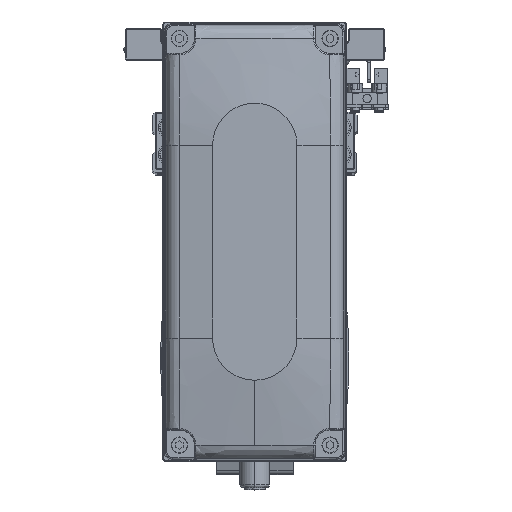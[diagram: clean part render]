
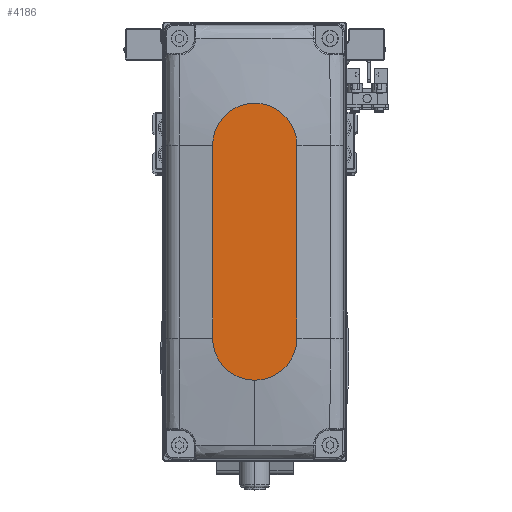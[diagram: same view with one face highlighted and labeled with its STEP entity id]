
A CAD part, top view. The second image highlights one B-rep face of the part: STEP entity #4186.
In plain terms, the highlighted planar face has unit normal (0, 0, 1).
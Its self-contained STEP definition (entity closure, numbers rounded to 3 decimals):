
#423 = FACE_OUTER_BOUND ( 'NONE', #6523, .T. ) ;
#1273 = VERTEX_POINT ( 'NONE', #39186 ) ;
#1649 = ORIENTED_EDGE ( 'NONE', *, *, #20630, .T. ) ;
#3015 = VERTEX_POINT ( 'NONE', #13288 ) ;
#3447 = VERTEX_POINT ( 'NONE', #15024 ) ;
#4186 = ADVANCED_FACE ( 'NONE', ( #423 ), #14258, .T. ) ;
#4999 = EDGE_CURVE ( 'NONE', #3447, #25923, #7928, .T. ) ;
#5270 = ORIENTED_EDGE ( 'NONE', *, *, #4999, .T. ) ;
#5757 = EDGE_CURVE ( 'NONE', #1273, #26841, #26725, .T. ) ;
#6523 = EDGE_LOOP ( 'NONE', ( #5270, #42004, #1649, #21681, #31702 ) ) ;
#7174 = AXIS2_PLACEMENT_3D ( 'NONE', #24872, #38697, #7606 ) ;
#7606 = DIRECTION ( 'NONE',  ( 1., 0., 0. ) ) ;
#7928 = LINE ( 'NONE', #21792, #27905 ) ;
#9667 = DIRECTION ( 'NONE',  ( 0., 0., 1. ) ) ;
#10834 = DIRECTION ( 'NONE',  ( 1., 0., 0. ) ) ;
#13288 = CARTESIAN_POINT ( 'NONE',  ( -32., -14., 35. ) ) ;
#13415 = DIRECTION ( 'NONE',  ( 1., 0., 0. ) ) ;
#14069 = LINE ( 'NONE', #27910, #22207 ) ;
#14226 = CARTESIAN_POINT ( 'NONE',  ( 46., 0., 35. ) ) ;
#14258 = PLANE ( 'NONE',  #28889 ) ;
#15024 = CARTESIAN_POINT ( 'NONE',  ( 32., 14., 35. ) ) ;
#19318 = CIRCLE ( 'NONE', #44691, 14. ) ;
#20423 = CIRCLE ( 'NONE', #26203, 14. ) ;
#20630 = EDGE_CURVE ( 'NONE', #3015, #1273, #14069, .T. ) ;
#21681 = ORIENTED_EDGE ( 'NONE', *, *, #5757, .T. ) ;
#21792 = CARTESIAN_POINT ( 'NONE',  ( -32., 14., 35. ) ) ;
#22207 = VECTOR ( 'NONE', #41739, 1000. ) ;
#22402 = EDGE_CURVE ( 'NONE', #25923, #3015, #19318, .T. ) ;
#23531 = DIRECTION ( 'NONE',  ( 1., 0., 0. ) ) ;
#24872 = CARTESIAN_POINT ( 'NONE',  ( 32., 0., 35. ) ) ;
#25923 = VERTEX_POINT ( 'NONE', #43432 ) ;
#26203 = AXIS2_PLACEMENT_3D ( 'NONE', #30668, #44501, #13415 ) ;
#26725 = CIRCLE ( 'NONE', #7174, 14. ) ;
#26841 = VERTEX_POINT ( 'NONE', #14226 ) ;
#27905 = VECTOR ( 'NONE', #35617, 1000. ) ;
#27910 = CARTESIAN_POINT ( 'NONE',  ( -32., -14., 35. ) ) ;
#28095 = CARTESIAN_POINT ( 'NONE',  ( 0., 0., 35. ) ) ;
#28889 = AXIS2_PLACEMENT_3D ( 'NONE', #28095, #41920, #10834 ) ;
#30668 = CARTESIAN_POINT ( 'NONE',  ( 32., 0., 35. ) ) ;
#31702 = ORIENTED_EDGE ( 'NONE', *, *, #39141, .T. ) ;
#35617 = DIRECTION ( 'NONE',  ( -1., 0., 0. ) ) ;
#38697 = DIRECTION ( 'NONE',  ( 0., 0., 1. ) ) ;
#39141 = EDGE_CURVE ( 'NONE', #26841, #3447, #20423, .T. ) ;
#39186 = CARTESIAN_POINT ( 'NONE',  ( 32., -14., 35. ) ) ;
#40763 = CARTESIAN_POINT ( 'NONE',  ( -32., 0., 35. ) ) ;
#41739 = DIRECTION ( 'NONE',  ( 1., 0., 0. ) ) ;
#41920 = DIRECTION ( 'NONE',  ( 0., 0., 1. ) ) ;
#42004 = ORIENTED_EDGE ( 'NONE', *, *, #22402, .T. ) ;
#43432 = CARTESIAN_POINT ( 'NONE',  ( -32., 14., 35. ) ) ;
#44501 = DIRECTION ( 'NONE',  ( 0., 0., 1. ) ) ;
#44691 = AXIS2_PLACEMENT_3D ( 'NONE', #40763, #9667, #23531 ) ;
